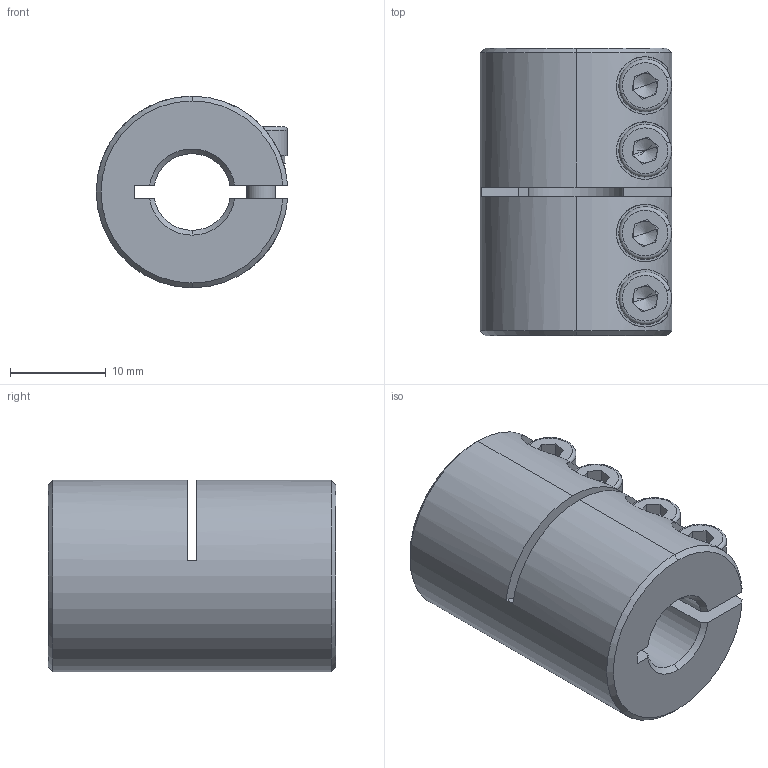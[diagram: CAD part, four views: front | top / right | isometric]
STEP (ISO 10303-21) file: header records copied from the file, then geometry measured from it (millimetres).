
FILE_DESCRIPTION (( 'STEP AP203' ), '1' );
FILE_NAME ('LL-B-D20L30-8-10.STEP', '2021-11-05T03:18:01', ( '' ), ( '' ), 'SwSTEP 2.0', 'SolidWorks 2018', '' );
FILE_SCHEMA (( 'CONFIG_CONTROL_DESIGN' ));
Length unit declared in the file: millimetre
Products named in the file (1): LL-B-D20L30-8-10
Bounding box: 19.98 x 30 x 20 mm (x, y, z)
Volume: 6910.6 mm3; surface area: 4545.8 mm2
Topology: 1 solids, 1 shells, 178 faces, 459 edges, 287 vertices
Faces by surface type: plane 89, cylinder 61, cone 20, torus 8
Entity records: 5821 total; most frequent: CARTESIAN_POINT 1349, DIRECTION 958, ORIENTED_EDGE 902, EDGE_CURVE 451, AXIS2_PLACEMENT_3D 368, VERTEX_POINT 287, LINE 222, VECTOR 222
